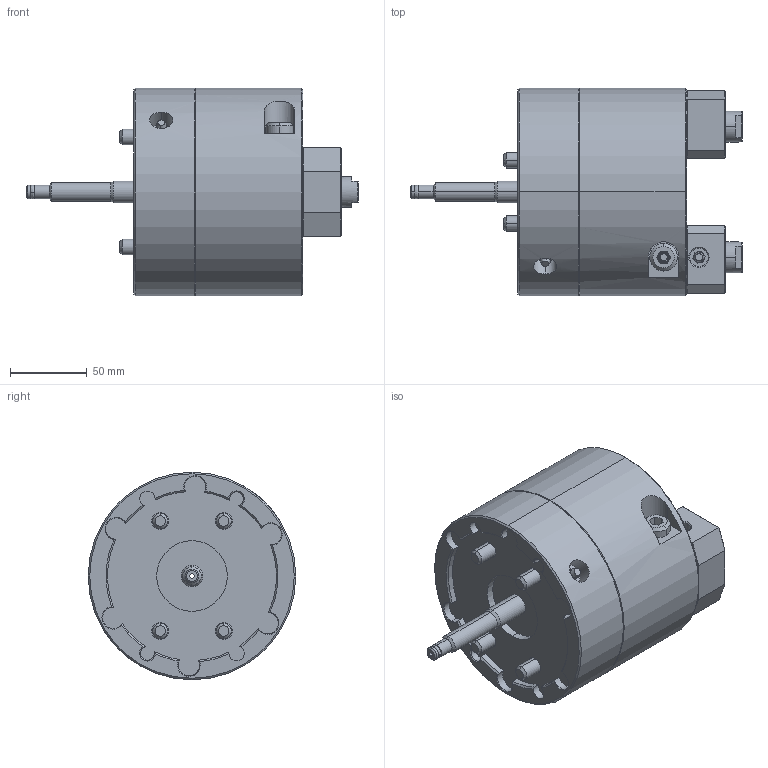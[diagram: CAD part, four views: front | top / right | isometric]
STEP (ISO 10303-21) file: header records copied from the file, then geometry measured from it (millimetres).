
FILE_DESCRIPTION (( 'STEP AP214' ), '1' );
FILE_NAME ('FGT05_OC.STEP', '2019-12-02T06:48:46', ( '' ), ( '' ), 'SwSTEP 2.0', 'SolidWorks 2017', '' );
FILE_SCHEMA (( 'AUTOMOTIVE_DESIGN' ));
Length unit declared in the file: millimetre
Products named in the file (2): 結合; FGT05_OC
Assembly tree (1 placements, depth 2):
  FGT05_OC
    結合
Bounding box: 216 x 135 x 135 mm (x, y, z)
Volume: 1594934.5 mm3; surface area: 131843.6 mm2
Topology: 3 solids, 17 shells, 1313 faces, 3151 edges, 1919 vertices
Faces by surface type: plane 623, cone 287, cylinder 250, bspline 97, torus 56
Entity records: 42139 total; most frequent: CARTESIAN_POINT 12147, ORIENTED_EDGE 6222, DIRECTION 6134, EDGE_CURVE 3111, AXIS2_PLACEMENT_3D 2229, VERTEX_POINT 1919, LINE 1676, VECTOR 1676
